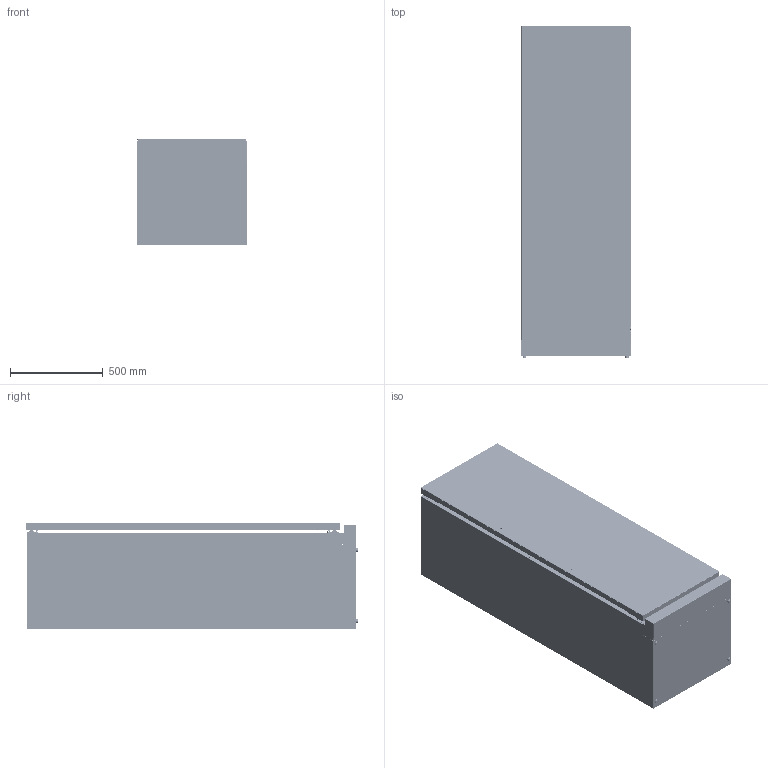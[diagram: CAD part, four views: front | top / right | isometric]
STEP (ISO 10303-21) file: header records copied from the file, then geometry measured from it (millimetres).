
FILE_DESCRIPTION((''),'2;1');
FILE_NAME('00_ASM','2026-02-09T11:01:56',('Administrator'),(''),'CREO PARAMETRIC BY PTC INC, 2019080','CREO PARAMETRIC BY PTC INC, 2019080','');
FILE_SCHEMA(('CONFIG_CONTROL_DESIGN'));
Products named in the file (25): _1000; 0002; _1_20002; M10_1_2000; _1_20001_ASM; DZ01-2189__46-2D-20001; DZ01-2189__46-2D-10001_ASM; 000; 0005; 0006; 122__0001_ASM; 12200; 1220002; DZ01-1503-1_122__D0001; _100_ASM; 122-360001_1_1; 12236-0001_1_1; 36-L0001_1_1; 36-0001_1_1; 36-R0001_1_1; 18036-0001_1_1; 122360001_ASM_1_1_ASM; 122MEN_ASM; 00_ASM
Assembly tree (27 placements, depth 4):
  00_ASM
    _100_ASM
      _1000
      0002
      _1_20001_ASM
        _1_20002
        M10_1_2000
      DZ01-2189__46-2D-10001_ASM
        DZ01-2189__46-2D-20001
      000
      122__0001_ASM
        000
        0005
        0006
      12200
      1220002
      DZ01-1503-1_122__D0001
    122MEN_ASM
      122360001_ASM_1_1_ASM
        122-360001_1_1
        12236-0001_1_1  x2
        36-L0001_1_1
        36-0001_1_1  x2
        36-R0001_1_1
        18036-0001_1_1  x2
Bounding box: 598 x 1793.7 x 572 mm (x, y, z)
Volume: 22060806.5 mm3; surface area: 21973697.9 mm2
Topology: 24 solids, 30 shells, 8379 faces, 20552 edges, 11615 vertices
Faces by surface type: cylinder 3380, plane 2323, torus 1080, sphere 814, bspline 774, cone 8
Entity records: 299879 total; most frequent: CARTESIAN_POINT 108756, DIRECTION 41892, ORIENTED_EDGE 39169, EDGE_CURVE 19594, AXIS2_PLACEMENT_3D 16459, VERTEX_POINT 11515, VECTOR 8974, LINE 8974
